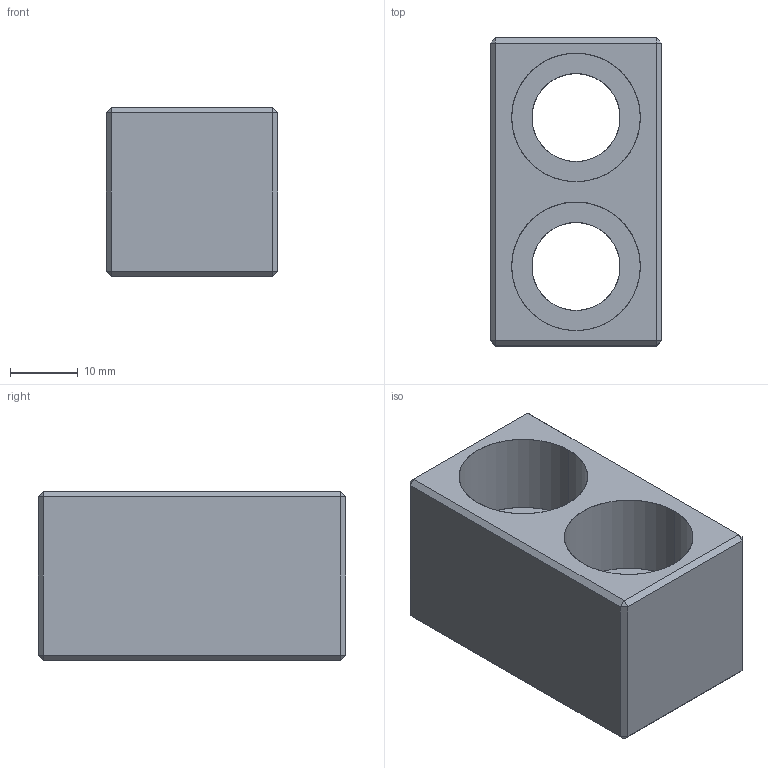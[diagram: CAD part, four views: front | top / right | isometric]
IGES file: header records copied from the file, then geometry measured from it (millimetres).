
Start section: SolidWorks IGES FILE using analytic representation for surfaces
Global section: file name: C:\WIX2\Positioning\3030\3030W160.igs; native system: SolidWorks 2003 by SolidWorks Corporation; preprocessor: Version 5.3; author: Joan; date: 030722.120010; units: millimetre
Bounding box: 25.4 x 45.5 x 25 mm (x, y, z)
Surface area: 7658.2 mm2 (no closed solid volume)
Topology: 0 solids, 0 shells, 36 faces, 384 edges, 384 vertices
Faces by surface type: bspline 28, revolution 8
